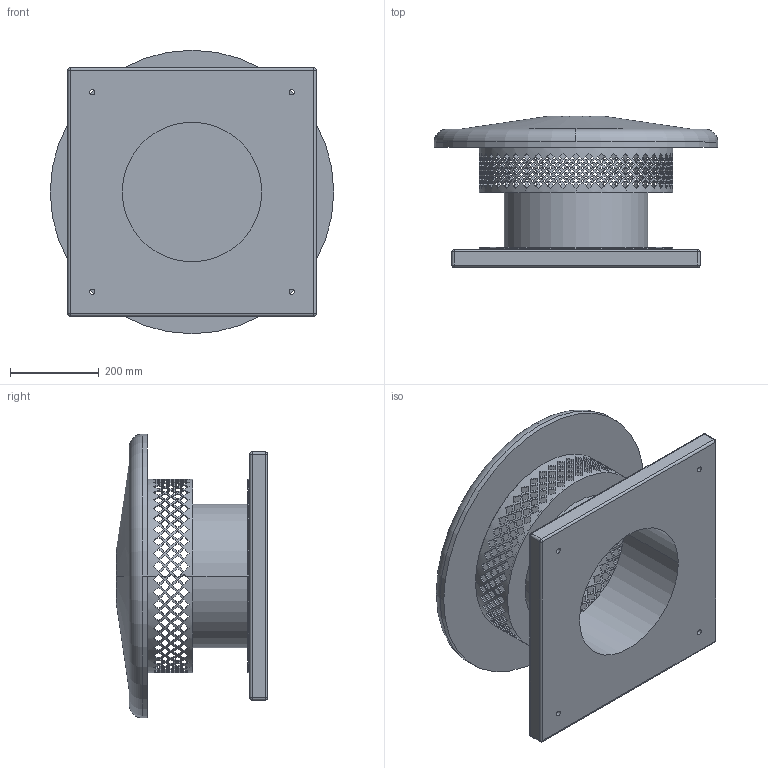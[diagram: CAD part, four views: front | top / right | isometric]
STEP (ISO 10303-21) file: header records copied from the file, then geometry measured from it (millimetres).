
FILE_DESCRIPTION(('STEP AP214'),'1');
FILE_NAME('fan_5113431000.stp','2017-03-31T12:44:29',('TraceParts'),('TraceParts S.A.'),'Spatial InterOp 3D',' ',' ');
FILE_SCHEMA(('automotive_design'));
Length unit declared in the file: millimetre
Products named in the file (1): fan_5113431000
Bounding box: 640 x 341 x 640 mm (x, y, z)
Volume: 26463497.3 mm3; surface area: 1879766.2 mm2
Topology: 1 solids, 1 shells, 999 faces, 3016 edges, 1998 vertices
Faces by surface type: plane 953, cylinder 32, sphere 8, torus 4, cone 2
Entity records: 43992 total; most frequent: DIRECTION 7010, ORIENTED_EDGE 6016, CARTESIAN_POINT 6006, EDGE_CURVE 3008, AXIS2_PLACEMENT_3D 3002, VERTEX_POINT 1998, ELLIPSE 1920, EDGE_LOOP 1464
